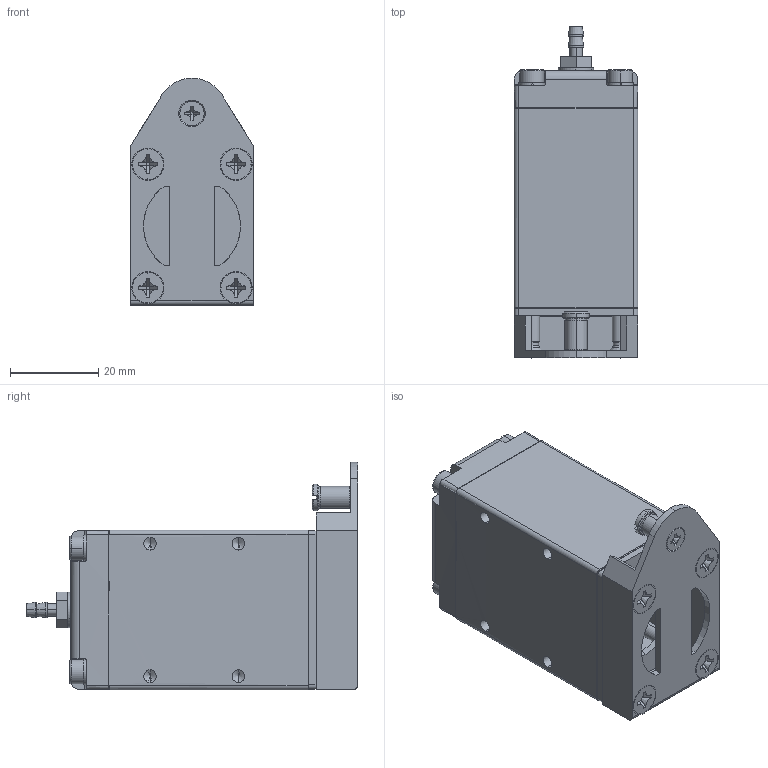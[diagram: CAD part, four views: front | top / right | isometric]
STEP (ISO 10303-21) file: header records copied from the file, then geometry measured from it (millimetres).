
FILE_DESCRIPTION (( 'STEP AP214' ), '1' );
FILE_NAME ('GT-NF10.STEP', '2019-11-27T02:16:52', ( '微软用户' ), ( '微软中国' ), 'SwSTEP 2.0', 'SolidWorks 2016', '' );
FILE_SCHEMA (( 'AUTOMOTIVE_DESIGN' ));
Length unit declared in the file: millimetre
Products named in the file (1): GT-NF10
Bounding box: 28 x 75.2 x 51.6 mm (x, y, z)
Surface area: 17775.8 mm2 (no closed solid volume)
Topology: 0 solids, 59 shells, 621 faces, 1669 edges, 1124 vertices
Faces by surface type: plane 281, cylinder 194, bspline 72, cone 54, torus 20
Entity records: 29515 total; most frequent: CARTESIAN_POINT 11412, ORIENTED_EDGE 3042, DIRECTION 2785, EDGE_CURVE 1637, VERTEX_POINT 1124, AXIS2_PLACEMENT_3D 1040, LINE 705, VECTOR 705
